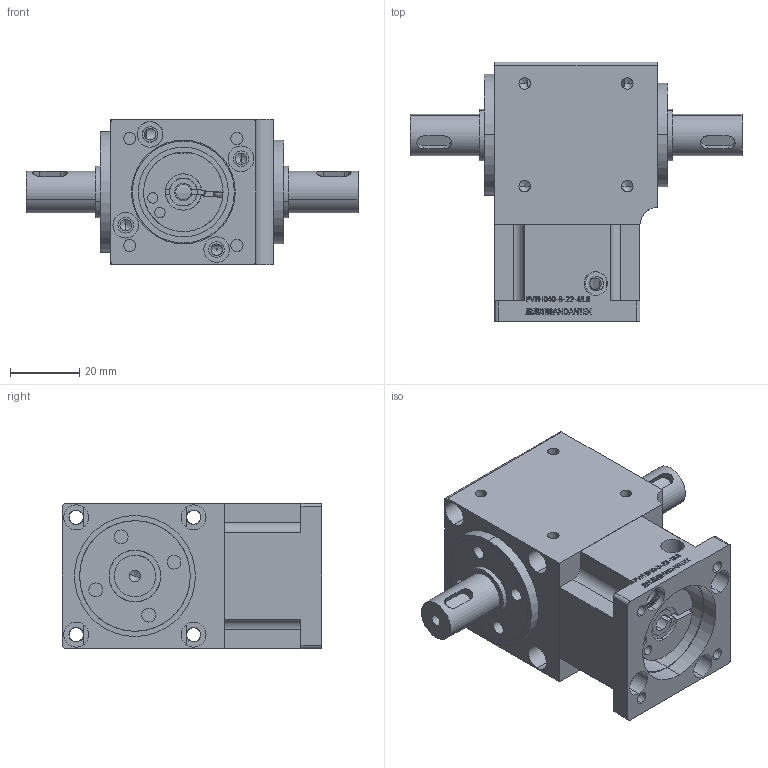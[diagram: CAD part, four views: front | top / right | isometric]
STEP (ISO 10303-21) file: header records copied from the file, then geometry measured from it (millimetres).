
FILE_DESCRIPTION (( 'STEP AP203' ), '1' );
FILE_NAME ('PVFH040邧粣 5-22-43.8.STEP', '2023-07-12T08:03:44', ( 'Windows User' ), ( 'P R C' ), 'SwSTEP 2.0', 'SolidWorks 2016', '' );
FILE_SCHEMA (( 'CONFIG_CONTROL_DESIGN' ));
Length unit declared in the file: millimetre
Products named in the file (12): 蹟譫ㄗ2ㄘ; 標杶ㄗ1ㄘ; 6001_Rolling bearings 6001 GB 276-94; 6002_Rolling bearings 6002 GB 276-94; 61902_Rolling bearings 61902 GB 276-94; 綴楊擘ㄗ祭輛ㄘ; 褲极; 8-5粣杶; 输入轴; 怀堤粣ㄗ邧粣ㄘ; 蹟譫; PVFH040邧粣  5-22-43.8
Assembly tree (11 placements, depth 2):
  PVFH040邧粣  5-22-43.8
    褲极
    输入轴
    蹟譫
    蹟譫ㄗ2ㄘ
    標杶ㄗ1ㄘ
    6001_Rolling bearings 6001 GB 276-94
    6002_Rolling bearings 6002 GB 276-94
    61902_Rolling bearings 61902 GB 276-94
    綴楊擘ㄗ祭輛ㄘ
    8-5粣杶
    怀堤粣ㄗ邧粣ㄘ
Bounding box: 96 x 75 x 42 mm (x, y, z)
Volume: 99678.3 mm3; surface area: 58344.7 mm2
Topology: 32 solids, 32 shells, 1483 faces, 4339 edges, 2848 vertices
Faces by surface type: plane 660, bspline 488, cylinder 283, cone 52
Entity records: 65165 total; most frequent: CARTESIAN_POINT 27539, ORIENTED_EDGE 8610, DIRECTION 6182, EDGE_CURVE 4305, VERTEX_POINT 2848, AXIS2_PLACEMENT_3D 2169, LINE 1844, VECTOR 1844
